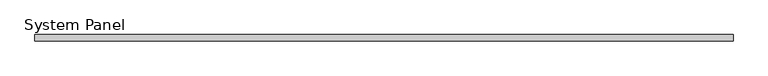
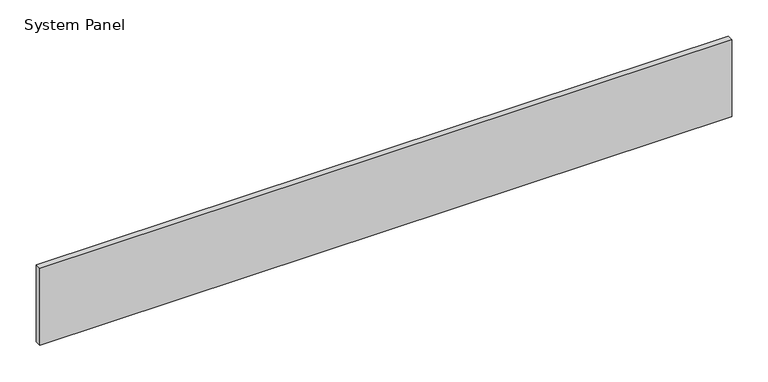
"""IFC4 building model written with IfcOpenShell, lengths in millimetres: plate geometry, System Panel : VACÍO."""

from ifc_helpers import new_model, si_unit, origin, origin_with_axes, place, context, project, spatial, polyline, outline, extrude, source, transform, mapped, element, save


def system_panel_bc75342b(model_context):
    return source(origin(), model_context, "Body", "SweptSolid", [
        extrude(outline(polyline([(550.6666668, -5.0), (-550.6666668, -5.0), (-550.6666668, 5.0), (550.6666668, 5.0), (550.6666668, -5.0)])), origin_with_axes(), (0.0, 0.0, 1.0), 129.4545455),
    ])


if __name__ == "__main__":
    model = new_model("IFC4")
    model_context = context("Model", 3, world=origin())
    ifc_project = project(units=[si_unit("LENGTHUNIT", "METRE", prefix="MILLI")], contexts=[model_context])
    site = spatial("IfcSite", under=ifc_project)
    building = spatial("IfcBuilding", under=site)
    placement = place(None, origin())
    system_panel_shape = system_panel_bc75342b(model_context)
    element("IfcPlate", 1, ObjectType="System Panel : VACÍO", at=placement, inside=building, context=model_context, shape_type="MappedRepresentation", body=[
        mapped(system_panel_shape, transform((0.0, 0.0, 0.0), x_axis=(1.0, 0.0, 0.0), y_axis=(0.0, 1.0, 0.0), z_axis=(0.0, 0.0, 1.0))),
    ])
    save(model, "model.ifc")
